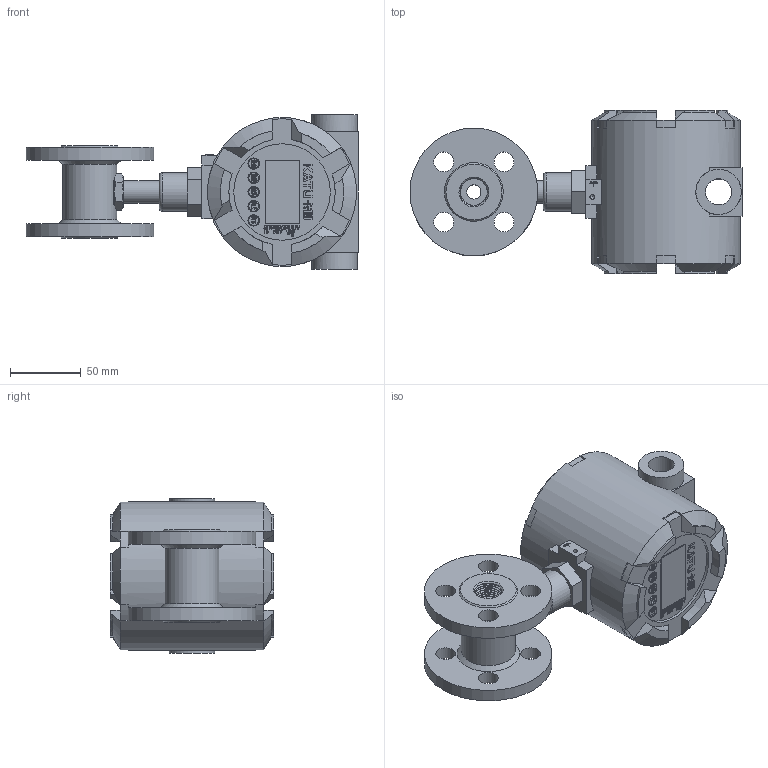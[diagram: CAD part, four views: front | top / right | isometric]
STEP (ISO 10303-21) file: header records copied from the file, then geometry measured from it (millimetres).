
FILE_DESCRIPTION( (''), '2;1');
FILE_NAME( 'QTKC_DN10_DN12_flange_Ex.step', '2026-08-11T14:37:53+08:00', (''), (''), '', '', '');
FILE_SCHEMA (('AUTOMOTIVE_DESIGN { 1 0 10303 214 3 1 1 1 }'));
Length unit declared in the file: millimetre
Products named in the file (1): QTKC DN10_DN12_flange_Ex
Bounding box: 233.9 x 115 x 109 mm (x, y, z)
Volume: 1076330.1 mm3; surface area: 113593.6 mm2
Topology: 3 solids, 3 shells, 1357 faces, 3699 edges, 2454 vertices
Faces by surface type: plane 720, extrusion 504, cylinder 81, cone 40, torus 6, bspline 6
Full cylindrical faces by diameter (mm): 3.3 x1, 8 x1, 10 x1, 14 x8, 16 x1, 17 x1, 18.5 x1, 21 x2, 27 x1, 32 x2, 38 x1, 68 x1, 90 x2, 105 x1
Entity records: 49250 total; most frequent: CARTESIAN_POINT 17043, ORIENTED_EDGE 7286, DIRECTION 4985, EDGE_CURVE 3643, VECTOR 2805, VERTEX_POINT 2436, LINE 2301, B_SPLINE_CURVE_WITH_KNOTS 1604
